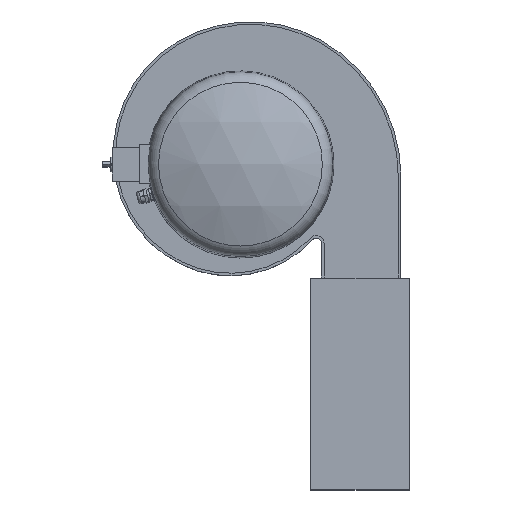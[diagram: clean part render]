
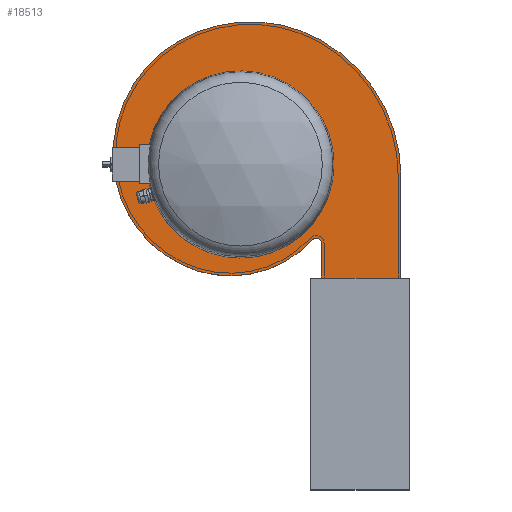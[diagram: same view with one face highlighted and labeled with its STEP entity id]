
A CAD part, top view. The second image highlights one B-rep face of the part: STEP entity #18513.
In plain terms, the highlighted planar face has unit normal (0, 0, 1).
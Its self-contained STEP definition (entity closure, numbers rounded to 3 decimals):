
#148=PLANE('',#19335);
#762=CIRCLE('',#19317,302.683);
#764=CIRCLE('',#19320,275.812);
#766=CIRCLE('',#19323,253.209);
#768=CIRCLE('',#19326,233.749);
#770=CIRCLE('',#19329,215.217);
#772=CIRCLE('',#19332,10.);
#774=CIRCLE('',#19336,180.);
#999=FACE_BOUND('',#3312,.T.);
#2191=FACE_OUTER_BOUND('',#3311,.T.);
#3311=EDGE_LOOP('',(#15152,#15153,#15154,#15155,#15156,#15157,#15158,#15159,
#15160));
#3312=EDGE_LOOP('',(#15161));
#4273=LINE('',#35394,#5832);
#4688=LINE('',#36324,#6247);
#4695=LINE('',#36362,#6254);
#5832=VECTOR('',#20735,10.);
#6247=VECTOR('',#21326,10.);
#6254=VECTOR('',#21371,10.);
#8576=VERTEX_POINT('',#35391);
#8577=VERTEX_POINT('',#35393);
#9004=VERTEX_POINT('',#36322);
#9005=VERTEX_POINT('',#36326);
#9007=VERTEX_POINT('',#36332);
#9009=VERTEX_POINT('',#36338);
#9011=VERTEX_POINT('',#36344);
#9013=VERTEX_POINT('',#36350);
#9015=VERTEX_POINT('',#36356);
#9017=VERTEX_POINT('',#36365);
#10771=EDGE_CURVE('',#8577,#8576,#4273,.T.);
#11205=EDGE_CURVE('',#9004,#8576,#4688,.T.);
#11206=EDGE_CURVE('',#9005,#9004,#762,.T.);
#11209=EDGE_CURVE('',#9007,#9005,#764,.T.);
#11212=EDGE_CURVE('',#9009,#9007,#766,.T.);
#11215=EDGE_CURVE('',#9011,#9009,#768,.T.);
#11218=EDGE_CURVE('',#9013,#9011,#770,.T.);
#11221=EDGE_CURVE('',#9015,#9013,#772,.T.);
#11224=EDGE_CURVE('',#8577,#9015,#4695,.T.);
#11226=EDGE_CURVE('',#9017,#9017,#774,.T.);
#15152=ORIENTED_EDGE('',*,*,#10771,.T.);
#15153=ORIENTED_EDGE('',*,*,#11205,.F.);
#15154=ORIENTED_EDGE('',*,*,#11206,.F.);
#15155=ORIENTED_EDGE('',*,*,#11209,.F.);
#15156=ORIENTED_EDGE('',*,*,#11212,.F.);
#15157=ORIENTED_EDGE('',*,*,#11215,.F.);
#15158=ORIENTED_EDGE('',*,*,#11218,.F.);
#15159=ORIENTED_EDGE('',*,*,#11221,.F.);
#15160=ORIENTED_EDGE('',*,*,#11224,.F.);
#15161=ORIENTED_EDGE('',*,*,#11226,.T.);
#18513=ADVANCED_FACE('',(#2191,#999),#148,.F.);
#19317=AXIS2_PLACEMENT_3D('',#36327,#21329,#21330);
#19320=AXIS2_PLACEMENT_3D('',#36333,#21336,#21337);
#19323=AXIS2_PLACEMENT_3D('',#36339,#21343,#21344);
#19326=AXIS2_PLACEMENT_3D('',#36345,#21350,#21351);
#19329=AXIS2_PLACEMENT_3D('',#36351,#21357,#21358);
#19332=AXIS2_PLACEMENT_3D('',#36357,#21364,#21365);
#19335=AXIS2_PLACEMENT_3D('',#36364,#21373,#21374);
#19336=AXIS2_PLACEMENT_3D('',#36366,#21375,#21376);
#20735=DIRECTION('',(1.,0.,0.));
#21326=DIRECTION('',(0.,-1.,0.));
#21329=DIRECTION('center_axis',(0.,0.,-1.));
#21330=DIRECTION('ref_axis',(1.,0.,0.));
#21336=DIRECTION('center_axis',(0.,0.,-1.));
#21337=DIRECTION('ref_axis',(0.495,0.869,0.));
#21343=DIRECTION('center_axis',(0.,0.,-1.));
#21344=DIRECTION('ref_axis',(-0.513,0.859,0.));
#21350=DIRECTION('center_axis',(0.,0.,-1.));
#21351=DIRECTION('ref_axis',(-0.999,-0.043,0.));
#21357=DIRECTION('center_axis',(0.,0.,-1.));
#21358=DIRECTION('ref_axis',(-0.439,-0.898,0.));
#21364=DIRECTION('center_axis',(0.,0.,1.));
#21365=DIRECTION('ref_axis',(-1.,0.,0.));
#21371=DIRECTION('',(0.,1.,0.));
#21373=DIRECTION('center_axis',(0.,0.,-1.));
#21374=DIRECTION('ref_axis',(-1.,0.,0.));
#21375=DIRECTION('center_axis',(0.,0.,-1.));
#21376=DIRECTION('ref_axis',(1.,0.,0.));
#35391=CARTESIAN_POINT('',(309.,-218.5,2.));
#35393=CARTESIAN_POINT('',(156.,-218.5,2.));
#35394=CARTESIAN_POINT('',(180.616,-218.5,2.));
#36322=CARTESIAN_POINT('',(309.,-24.345,2.));
#36324=CARTESIAN_POINT('',(309.,-220.,2.));
#36326=CARTESIAN_POINT('',(156.,238.737,2.));
#36327=CARTESIAN_POINT('Origin',(6.317,-24.345,2.));
#36332=CARTESIAN_POINT('',(-121.76,235.84,2.));
#36333=CARTESIAN_POINT('Origin',(19.605,-0.99,2.));
#36338=CARTESIAN_POINT('',(-244.956,7.563,2.));
#36339=CARTESIAN_POINT('Origin',(8.02,18.419,2.));
#36344=CARTESIAN_POINT('',(-114.085,-192.413,2.));
#36345=CARTESIAN_POINT('Origin',(-11.422,17.585,2.));
#36350=CARTESIAN_POINT('',(138.649,-144.969,2.));
#36351=CARTESIAN_POINT('Origin',(-19.561,0.935,2.));
#36356=CARTESIAN_POINT('',(156.,-151.748,2.));
#36357=CARTESIAN_POINT('Origin',(146.,-151.748,2.));
#36362=CARTESIAN_POINT('',(156.,-151.748,2.));
#36364=CARTESIAN_POINT('Origin',(-95.5,-165.411,2.));
#36365=CARTESIAN_POINT('',(-180.,0.,2.));
#36366=CARTESIAN_POINT('Origin',(0.,0.,
2.));
